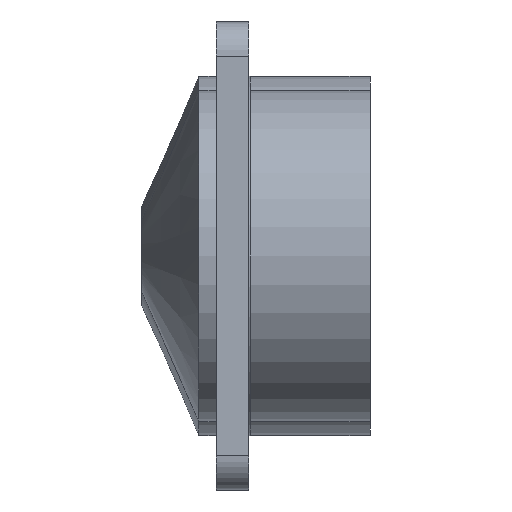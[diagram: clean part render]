
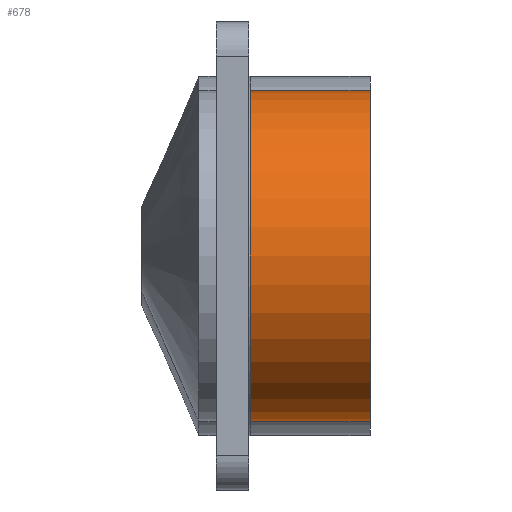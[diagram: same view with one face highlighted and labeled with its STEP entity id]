
A CAD part, left-side view. The second image highlights one B-rep face of the part: STEP entity #678.
In plain terms, the highlighted cylindrical face has radius 29 mm (diameter 58 mm), a full revolution.
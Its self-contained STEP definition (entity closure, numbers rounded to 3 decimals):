
#54=CIRCLE('',#757,29.);
#66=CIRCLE('',#783,29.);
#90=CYLINDRICAL_SURFACE('',#784,29.);
#229=ORIENTED_EDGE('',*,*,#317,.F.);
#230=ORIENTED_EDGE('',*,*,#305,.T.);
#305=EDGE_CURVE('',#368,#368,#54,.F.);
#317=EDGE_CURVE('',#379,#379,#66,.T.);
#368=VERTEX_POINT('',#1154);
#379=VERTEX_POINT('',#1191);
#509=EDGE_LOOP('',(#229));
#510=EDGE_LOOP('',(#230));
#599=FACE_BOUND('',#509,.T.);
#600=FACE_BOUND('',#510,.T.);
#678=ADVANCED_FACE('',(#599,#600),#90,.T.);
#757=AXIS2_PLACEMENT_3D('',#1153,#938,#939);
#783=AXIS2_PLACEMENT_3D('',#1190,#990,#991);
#784=AXIS2_PLACEMENT_3D('',#1192,#992,#993);
#938=DIRECTION('',(0.,1.,0.));
#939=DIRECTION('',(0.,0.,1.));
#990=DIRECTION('',(0.,-1.,0.));
#991=DIRECTION('',(0.,0.,-1.));
#992=DIRECTION('',(0.,-1.,0.));
#993=DIRECTION('',(0.,0.,-1.));
#1153=CARTESIAN_POINT('',(-65.,-0.3,0.));
#1154=CARTESIAN_POINT('',(-65.,-0.3,29.));
#1190=CARTESIAN_POINT('',(-65.,-21.3,0.));
#1191=CARTESIAN_POINT('',(-65.,-21.3,-29.));
#1192=CARTESIAN_POINT('',(-65.,-2.995,0.));
